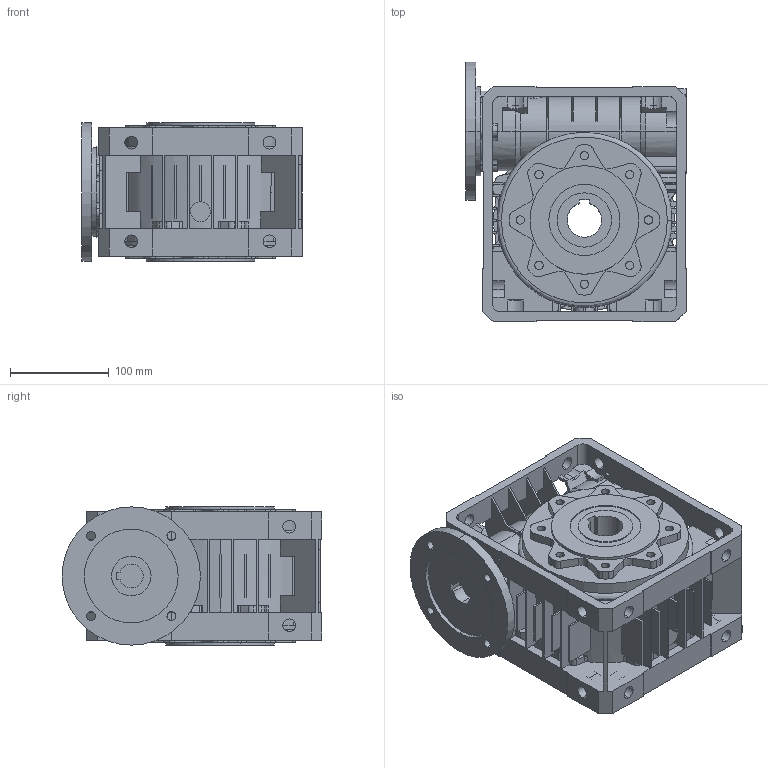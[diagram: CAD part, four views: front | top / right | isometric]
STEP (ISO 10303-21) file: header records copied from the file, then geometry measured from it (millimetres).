
FILE_DESCRIPTION (( 'STEP AP214' ), '1' );
FILE_NAME ('MU 90 NO PAM90B14 NO 0 D35 STANDARD 0 0.step', '2019-01-29T10:02:26', ( '' ), ( '' ), 'SwSTEP 2.0', 'SolidWorks 2015', '' );
FILE_SCHEMA (( 'AUTOMOTIVE_DESIGN' ));
Length unit declared in the file: millimetre
Products named in the file (7): INPUT SHAFT MU 90_F.24; OUTPUT SHAFT U-MU_U-MU 90 D.35; BODY U-MU 90 - 20088783; FAM MU 90_D.140; PAM MU 90_PAM 90 B14; MU 90 NO PAM90B14 NO 0 D35 STANDARD 0 0; FLANGE FP U-MU 90 - 20089360
Assembly tree (6 placements, depth 3):
  MU 90 NO PAM90B14 NO 0 D35 STANDARD 0 0
    BODY U-MU 90 - 20088783
    FLANGE FP U-MU 90 - 20089360
    OUTPUT SHAFT U-MU_U-MU 90 D.35
    PAM MU 90_PAM 90 B14
      FAM MU 90_D.140
      INPUT SHAFT MU 90_F.24
Bounding box: 223 x 263 x 140 mm (x, y, z)
Volume: 4399603 mm3; surface area: 576601 mm2
Topology: 5 solids, 6 shells, 1049 faces, 3058 edges, 2022 vertices
Faces by surface type: plane 498, cylinder 493, cone 46, bspline 12
Entity records: 39636 total; most frequent: CARTESIAN_POINT 7351, DIRECTION 6159, ORIENTED_EDGE 6116, EDGE_CURVE 3058, AXIS2_PLACEMENT_3D 2203, VERTEX_POINT 2022, LINE 1753, VECTOR 1753
